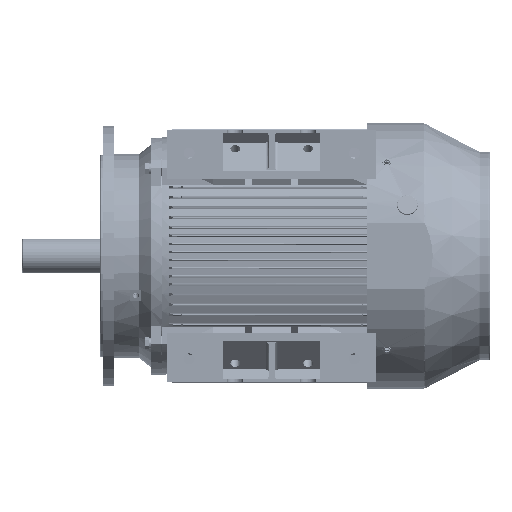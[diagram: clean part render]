
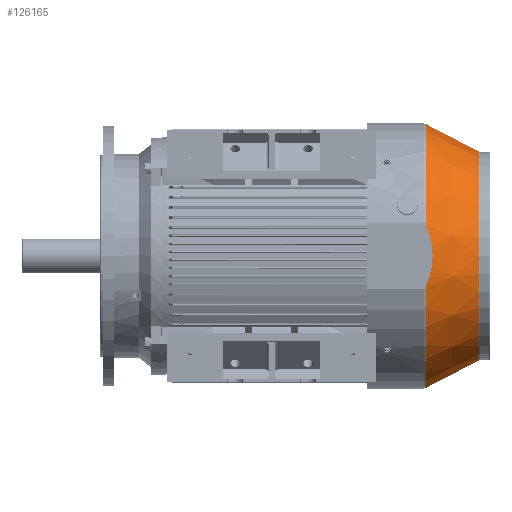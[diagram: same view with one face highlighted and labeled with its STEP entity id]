
A CAD part, front view. The second image highlights one B-rep face of the part: STEP entity #126165.
In plain terms, the highlighted conical face has half-angle 27.379 degrees and reference radius 180.336 mm.
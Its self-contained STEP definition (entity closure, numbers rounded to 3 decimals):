
#41111 = DIRECTION ( 'NONE',  ( 0.46, 0., 0.888 ) ) ;
#41113 = VECTOR ( 'NONE', #41111, 1000. ) ;
#41115 = CARTESIAN_POINT ( 'NONE',  ( 180.336, 0., -194.351 ) ) ;
#41117 = LINE ( 'NONE', #41115, #41113 ) ;
#41131 = CARTESIAN_POINT ( 'NONE',  ( 228.416, 0., -101.514 ) ) ;
#41170 = AXIS2_PLACEMENT_3D ( 'NONE', #41314, #41312, #41311 ) ;
#41181 = CIRCLE ( 'NONE', #41170, 180.336 ) ;
#41304 = CARTESIAN_POINT ( 'NONE',  ( 180.336, 0., -194.351 ) ) ;
#41306 = CARTESIAN_POINT ( 'NONE',  ( -180.336, 0., -194.351 ) ) ;
#41311 = DIRECTION ( 'NONE',  ( 1., 0., 0. ) ) ;
#41312 = DIRECTION ( 'NONE',  ( 0., 0., 1. ) ) ;
#41314 = CARTESIAN_POINT ( 'NONE',  ( 0., 0., -194.351 ) ) ;
#41362 = CARTESIAN_POINT ( 'NONE',  ( 53.757, -222., -101.514 ) ) ;
#41364 = DIRECTION ( 'NONE',  ( 1., 0., 0. ) ) ;
#41366 = DIRECTION ( 'NONE',  ( 0., 0., 1. ) ) ;
#41368 = CARTESIAN_POINT ( 'NONE',  ( 0., 0., -101.514 ) ) ;
#41369 = AXIS2_PLACEMENT_3D ( 'NONE', #41368, #41366, #41364 ) ;
#41371 = CIRCLE ( 'NONE', #41369, 228.416 ) ;
#41418 = CARTESIAN_POINT ( 'NONE',  ( -228.416, 0., -101.514 ) ) ;
#41421 = DIRECTION ( 'NONE',  ( -0.46, 0., 0.888 ) ) ;
#41422 = VECTOR ( 'NONE', #41421, 1000. ) ;
#41424 = CARTESIAN_POINT ( 'NONE',  ( -180.336, 0., -194.351 ) ) ;
#41426 = LINE ( 'NONE', #41424, #41422 ) ;
#44498 = CARTESIAN_POINT ( 'NONE',  ( -53.757, -222., -101.514 ) ) ;
#44502 = DIRECTION ( 'NONE',  ( 1., 0., 0. ) ) ;
#44504 = DIRECTION ( 'NONE',  ( 0., 0., 1. ) ) ;
#44506 = CARTESIAN_POINT ( 'NONE',  ( 0., 0., -101.514 ) ) ;
#44508 = AXIS2_PLACEMENT_3D ( 'NONE', #44506, #44504, #44502 ) ;
#44509 = CIRCLE ( 'NONE', #44508, 228.416 ) ;
#44572 = DIRECTION ( 'NONE',  ( 1., 0., 0. ) ) ;
#44573 = DIRECTION ( 'NONE',  ( 0., 0., 1. ) ) ;
#44575 = CARTESIAN_POINT ( 'NONE',  ( 0., 0., -194.351 ) ) ;
#44576 = AXIS2_PLACEMENT_3D ( 'NONE', #44575, #44573, #44572 ) ;
#44584 = CONICAL_SURFACE ( 'NONE', #44576, 180.336, 0.478 ) ;
#44586 = FACE_OUTER_BOUND ( 'NONE', #126169, .T. ) ;
#44802 = CARTESIAN_POINT ( 'NONE',  ( -53.757, -222., -101.514 ) ) ;
#44804 = CARTESIAN_POINT ( 'NONE',  ( -49.57, -222., -103.417 ) ) ;
#44806 = CARTESIAN_POINT ( 'NONE',  ( -45.284, -222., -105.155 ) ) ;
#44808 = CARTESIAN_POINT ( 'NONE',  ( -39.776, -222., -107.081 ) ) ;
#44809 = CARTESIAN_POINT ( 'NONE',  ( -38.669, -222., -107.453 ) ) ;
#44811 = CARTESIAN_POINT ( 'NONE',  ( -36.454, -222., -108.167 ) ) ;
#44814 = CARTESIAN_POINT ( 'NONE',  ( -33.122, -222., -109.194 ) ) ;
#44816 = CARTESIAN_POINT ( 'NONE',  ( -29.768, -222., -110.087 ) ) ;
#44818 = CARTESIAN_POINT ( 'NONE',  ( -18.534, -222., -112.756 ) ) ;
#44820 = CARTESIAN_POINT ( 'NONE',  ( -9.377, -222., -113.901 ) ) ;
#44821 = CARTESIAN_POINT ( 'NONE',  ( 1.148, -222., -113.903 ) ) ;
#44822 = CARTESIAN_POINT ( 'NONE',  ( 2.317, -222., -113.885 ) ) ;
#44824 = CARTESIAN_POINT ( 'NONE',  ( 4.647, -222., -113.814 ) ) ;
#44825 = CARTESIAN_POINT ( 'NONE',  ( 5.808, -222., -113.762 ) ) ;
#44827 = CARTESIAN_POINT ( 'NONE',  ( 9.284, -222., -113.551 ) ) ;
#44829 = CARTESIAN_POINT ( 'NONE',  ( 11.588, -222., -113.342 ) ) ;
#44831 = CARTESIAN_POINT ( 'NONE',  ( 18.465, -222., -112.513 ) ) ;
#44832 = CARTESIAN_POINT ( 'NONE',  ( 23.001, -222., -111.694 ) ) ;
#44834 = CARTESIAN_POINT ( 'NONE',  ( 31.985, -222., -109.562 ) ) ;
#44835 = CARTESIAN_POINT ( 'NONE',  ( 36.432, -222., -108.249 ) ) ;
#44837 = CARTESIAN_POINT ( 'NONE',  ( 41.94, -222., -106.325 ) ) ;
#44839 = CARTESIAN_POINT ( 'NONE',  ( 43.038, -222., -105.927 ) ) ;
#44841 = CARTESIAN_POINT ( 'NONE',  ( 45.216, -222., -105.106 ) ) ;
#44843 = CARTESIAN_POINT ( 'NONE',  ( 46.299, -222., -104.684 ) ) ;
#44845 = CARTESIAN_POINT ( 'NONE',  ( 49.527, -222., -103.383 ) ) ;
#44847 = CARTESIAN_POINT ( 'NONE',  ( 51.654, -222., -102.47 ) ) ;
#44849 = CARTESIAN_POINT ( 'NONE',  ( 53.757, -222., -101.514 ) ) ;
#44867 = B_SPLINE_CURVE_WITH_KNOTS ( 'NONE', 3,
 ( #44849, #44847, #44845, #44843, #44841, #44839, #44837, #44835, #44834, #44832, #44831, #44829, #44827, #44825, #44824, #44822, #44821, #44820, #44818, #44816, #44814, #44811, #44809, #44808, #44806, #44804, #44802 ),
 .UNSPECIFIED., .F., .F.,
 ( 4, 2, 2, 2, 2, 2, 2, 2, 2, 2, 1, 2, 2, 4 ),
 ( 0.226, 0.233, 0.237, 0.24, 0.254, 0.267, 0.274, 0.278, 0.281, 0.309, 0.315, 0.319, 0.322, 0.336 ),
 .UNSPECIFIED. ) ;
#125005 = VERTEX_POINT ( 'NONE', #41131 ) ;
#125012 = EDGE_CURVE ( 'NONE', #125063, #125005, #41117, .T. ) ;
#125054 = EDGE_CURVE ( 'NONE', #125061, #125063, #41181, .T. ) ;
#125061 = VERTEX_POINT ( 'NONE', #41306 ) ;
#125063 = VERTEX_POINT ( 'NONE', #41304 ) ;
#125096 = EDGE_CURVE ( 'NONE', #125099, #125005, #41371, .T. ) ;
#125099 = VERTEX_POINT ( 'NONE', #41362 ) ;
#125138 = EDGE_CURVE ( 'NONE', #125061, #125139, #41426, .T. ) ;
#125139 = VERTEX_POINT ( 'NONE', #41418 ) ;
#125587 = ORIENTED_EDGE ( 'NONE', *, *, #125054, .T. ) ;
#126138 = EDGE_CURVE ( 'NONE', #125139, #126145, #44509, .T. ) ;
#126145 = VERTEX_POINT ( 'NONE', #44498 ) ;
#126165 = ADVANCED_FACE ( 'NONE', ( #44586 ), #44584, .T. ) ;
#126169 = EDGE_LOOP ( 'NONE', ( #126328, #125587, #126194, #126201, #126205, #126216 ) ) ;
#126194 = ORIENTED_EDGE ( 'NONE', *, *, #125012, .T. ) ;
#126201 = ORIENTED_EDGE ( 'NONE', *, *, #125096, .F. ) ;
#126205 = ORIENTED_EDGE ( 'NONE', *, *, #126210, .T. ) ;
#126210 = EDGE_CURVE ( 'NONE', #125099, #126145, #44867, .T. ) ;
#126216 = ORIENTED_EDGE ( 'NONE', *, *, #126138, .F. ) ;
#126328 = ORIENTED_EDGE ( 'NONE', *, *, #125138, .F. ) ;
